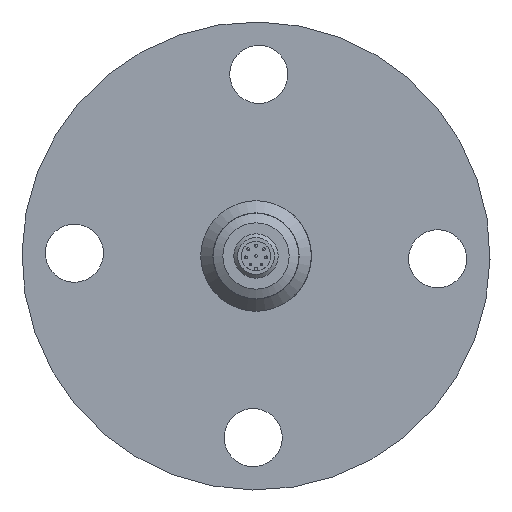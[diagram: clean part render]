
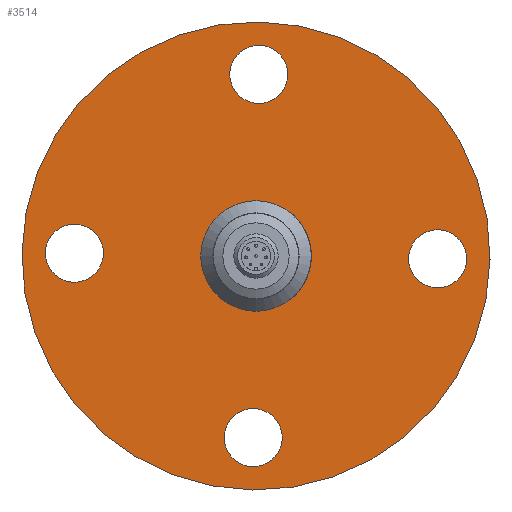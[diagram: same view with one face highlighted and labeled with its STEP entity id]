
A CAD part, left-side view. The second image highlights one B-rep face of the part: STEP entity #3514.
In plain terms, the highlighted planar face has unit normal (-1, 0, 0).
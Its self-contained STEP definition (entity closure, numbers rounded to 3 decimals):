
#135=PLANE('',#3812);
#1099=ORIENTED_EDGE('',*,*,#1963,.F.);
#1100=ORIENTED_EDGE('',*,*,#1962,.T.);
#1101=ORIENTED_EDGE('',*,*,#1961,.T.);
#1102=ORIENTED_EDGE('',*,*,#1960,.T.);
#1103=ORIENTED_EDGE('',*,*,#1959,.T.);
#1104=ORIENTED_EDGE('',*,*,#1958,.F.);
#1958=EDGE_CURVE('',#2411,#2411,#2717,.T.);
#1959=EDGE_CURVE('',#2412,#2412,#2718,.T.);
#1960=EDGE_CURVE('',#2413,#2413,#2719,.T.);
#1961=EDGE_CURVE('',#2414,#2414,#2720,.T.);
#1962=EDGE_CURVE('',#2415,#2415,#2721,.T.);
#1963=EDGE_CURVE('',#2416,#2416,#2722,.F.);
#2411=VERTEX_POINT('',#6930);
#2412=VERTEX_POINT('',#6933);
#2413=VERTEX_POINT('',#6936);
#2414=VERTEX_POINT('',#6939);
#2415=VERTEX_POINT('',#6942);
#2416=VERTEX_POINT('',#6945);
#2717=CIRCLE('',#3803,63.5);
#2718=CIRCLE('',#3805,7.874);
#2719=CIRCLE('',#3807,7.874);
#2720=CIRCLE('',#3809,7.874);
#2721=CIRCLE('',#3811,7.874);
#2722=CIRCLE('',#3813,15.);
#2890=EDGE_LOOP('',(#1099));
#2891=EDGE_LOOP('',(#1100));
#2892=EDGE_LOOP('',(#1101));
#2893=EDGE_LOOP('',(#1102));
#2894=EDGE_LOOP('',(#1103));
#2895=EDGE_LOOP('',(#1104));
#3219=FACE_BOUND('',#2890,.T.);
#3220=FACE_BOUND('',#2891,.T.);
#3221=FACE_BOUND('',#2892,.T.);
#3222=FACE_BOUND('',#2893,.T.);
#3223=FACE_BOUND('',#2894,.T.);
#3224=FACE_BOUND('',#2895,.T.);
#3514=ADVANCED_FACE('',(#3219,#3220,#3221,#3222,#3223,#3224),#135,.F.);
#3803=AXIS2_PLACEMENT_3D('',#6929,#4218,#4219);
#3805=AXIS2_PLACEMENT_3D('',#6932,#4222,#4223);
#3807=AXIS2_PLACEMENT_3D('',#6935,#4226,#4227);
#3809=AXIS2_PLACEMENT_3D('',#6938,#4230,#4231);
#3811=AXIS2_PLACEMENT_3D('',#6941,#4234,#4235);
#3812=AXIS2_PLACEMENT_3D('',#6943,#4236,#4237);
#3813=AXIS2_PLACEMENT_3D('',#6944,#4238,#4239);
#4218=DIRECTION('',(1.,0.,0.));
#4219=DIRECTION('',(0.,-1.,-0.015));
#4222=DIRECTION('',(1.,0.,0.));
#4223=DIRECTION('',(0.,-1.,-0.015));
#4226=DIRECTION('',(1.,0.,0.));
#4227=DIRECTION('',(0.,-1.,-0.015));
#4230=DIRECTION('',(1.,0.,0.));
#4231=DIRECTION('',(0.,-1.,-0.015));
#4234=DIRECTION('',(1.,0.,0.));
#4235=DIRECTION('',(0.,-1.,-0.015));
#4236=DIRECTION('',(1.,0.,0.));
#4237=DIRECTION('',(0.,1.,0.015));
#4238=DIRECTION('',(1.,0.,0.));
#4239=DIRECTION('',(0.,0.,-1.));
#6929=CARTESIAN_POINT('',(56.064,0.005,0.));
#6930=CARTESIAN_POINT('',(56.064,-63.488,-0.964));
#6932=CARTESIAN_POINT('',(56.064,49.275,0.748));
#6933=CARTESIAN_POINT('',(56.064,41.402,0.629));
#6935=CARTESIAN_POINT('',(56.064,-0.743,49.27));
#6936=CARTESIAN_POINT('',(56.064,-8.617,49.151));
#6938=CARTESIAN_POINT('',(56.064,-49.265,-0.748));
#6939=CARTESIAN_POINT('',(56.064,-57.138,-0.868));
#6941=CARTESIAN_POINT('',(56.064,0.753,-49.27));
#6942=CARTESIAN_POINT('',(56.064,-7.12,-49.39));
#6943=CARTESIAN_POINT('',(56.064,0.969,-63.493));
#6944=CARTESIAN_POINT('',(56.064,0.005,0.));
#6945=CARTESIAN_POINT('',(56.064,0.005,-15.));
